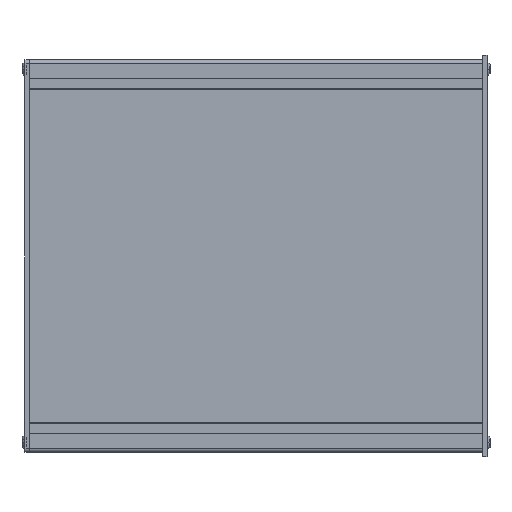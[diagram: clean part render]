
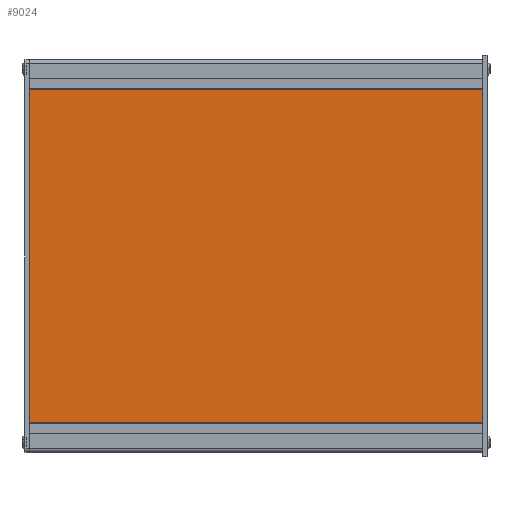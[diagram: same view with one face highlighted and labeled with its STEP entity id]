
A CAD part, left-side view. The second image highlights one B-rep face of the part: STEP entity #9024.
In plain terms, the highlighted planar face has unit normal (-1, 0, 0).
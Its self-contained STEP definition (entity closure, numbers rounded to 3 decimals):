
#992=PLANE('',#9904);
#1288=FACE_OUTER_BOUND('',#1844,.T.);
#1844=EDGE_LOOP('',(#6887,#6888,#6889,#6890));
#2674=LINE('',#14248,#3374);
#2684=LINE('',#14269,#3384);
#2685=LINE('',#14271,#3385);
#2686=LINE('',#14272,#3386);
#3374=VECTOR('',#11408,10.);
#3384=VECTOR('',#11426,10.);
#3385=VECTOR('',#11427,10.);
#3386=VECTOR('',#11428,10.);
#4430=VERTEX_POINT('',#14241);
#4433=VERTEX_POINT('',#14246);
#4440=VERTEX_POINT('',#14268);
#4441=VERTEX_POINT('',#14270);
#5317=EDGE_CURVE('',#4430,#4433,#2674,.T.);
#5327=EDGE_CURVE('',#4430,#4440,#2684,.T.);
#5328=EDGE_CURVE('',#4441,#4433,#2685,.T.);
#5329=EDGE_CURVE('',#4440,#4441,#2686,.T.);
#6887=ORIENTED_EDGE('',*,*,#5327,.F.);
#6888=ORIENTED_EDGE('',*,*,#5317,.T.);
#6889=ORIENTED_EDGE('',*,*,#5328,.F.);
#6890=ORIENTED_EDGE('',*,*,#5329,.F.);
#9024=ADVANCED_FACE('',(#1288),#992,.T.);
#9904=AXIS2_PLACEMENT_3D('',#14267,#11424,#11425);
#11408=DIRECTION('',(0.,1.,0.));
#11424=DIRECTION('center_axis',(-1.,0.,0.));
#11425=DIRECTION('ref_axis',(0.,0.,1.));
#11426=DIRECTION('',(0.,0.,-1.));
#11427=DIRECTION('',(0.,0.,1.));
#11428=DIRECTION('',(0.,1.,0.));
#14241=CARTESIAN_POINT('',(239.,0.,48.));
#14246=CARTESIAN_POINT('',(239.,250.,48.));
#14248=CARTESIAN_POINT('',(239.,0.,48.));
#14267=CARTESIAN_POINT('Origin',(239.,0.,-136.1));
#14268=CARTESIAN_POINT('',(239.,0.,-136.1));
#14269=CARTESIAN_POINT('',(239.,0.,-44.05));
#14270=CARTESIAN_POINT('',(239.,250.,-136.1));
#14271=CARTESIAN_POINT('',(239.,250.,-44.05));
#14272=CARTESIAN_POINT('',(239.,0.,-136.1));
